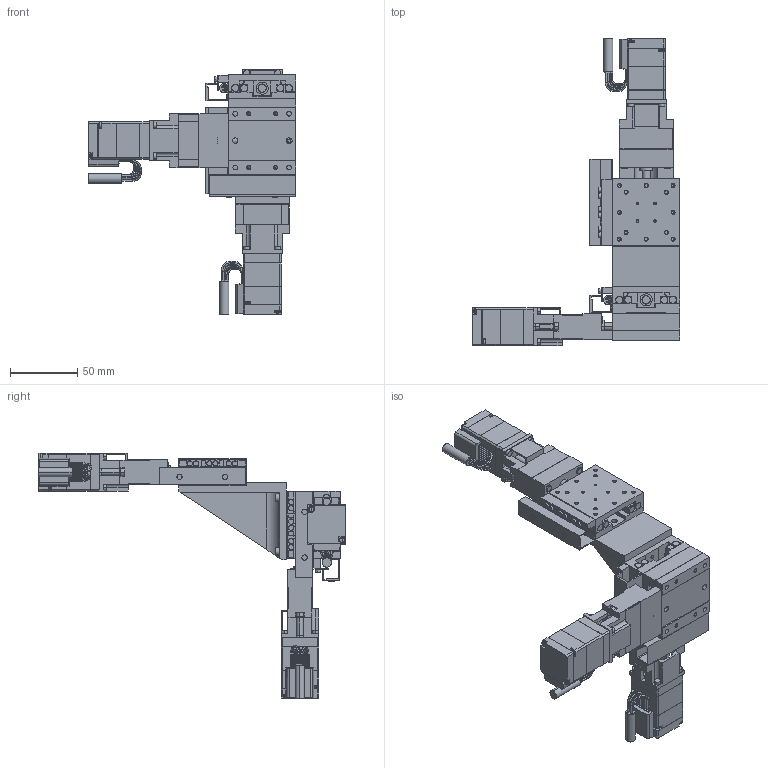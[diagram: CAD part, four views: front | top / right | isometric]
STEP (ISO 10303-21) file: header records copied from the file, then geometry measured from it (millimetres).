
FILE_DESCRIPTION(('STEP AP203'),'1');
FILE_NAME('C:/3D-Trans/3D_PMZG513T-L□-PA+240129.step','2024-03-14T08:34:00',(' '),(' '),'Spatial InterOp 3D',' ',' ');
FILE_SCHEMA(('CONFIG_CONTROL_DESIGN'));
Length unit declared in the file: millimetre
Products named in the file (19): 1; 2; 3; 4; 5; 6; 7; 8; 9; 10; 11; 12; 13; 14; 15; 16; 17; 18; 19
Bounding box: 154.4 x 228.4 x 182.4 mm (x, y, z)
Volume: 375354.8 mm3; surface area: 161828.1 mm2
Topology: 19 solids, 19 shells, 2360 faces, 6205 edges, 3915 vertices
Faces by surface type: plane 1178, cylinder 724, cone 266, torus 192
Entity records: 74194 total; most frequent: CARTESIAN_POINT 13285, DIRECTION 13160, ORIENTED_EDGE 12242, EDGE_CURVE 6121, AXIS2_PLACEMENT_3D 4726, VERTEX_POINT 3915, LINE 3708, VECTOR 3708
